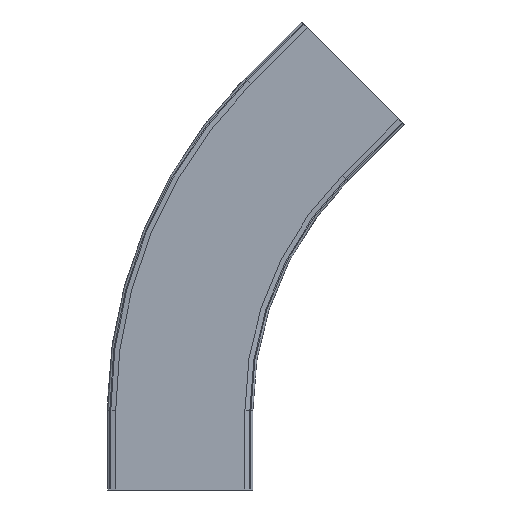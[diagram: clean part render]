
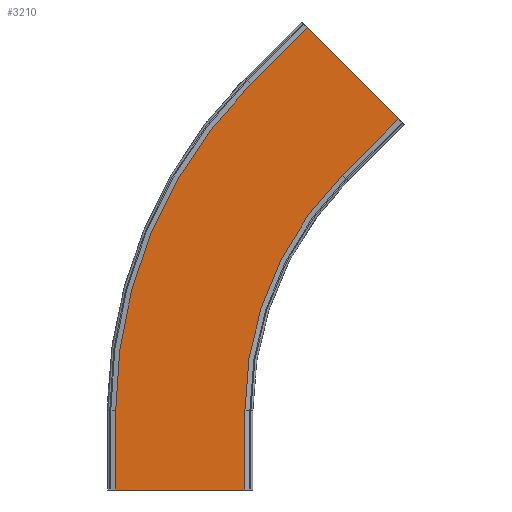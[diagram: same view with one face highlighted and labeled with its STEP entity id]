
A CAD part, front view. The second image highlights one B-rep face of the part: STEP entity #3210.
In plain terms, the highlighted planar face has unit normal (0, -1, 0).
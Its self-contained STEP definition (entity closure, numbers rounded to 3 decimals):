
#129=CIRCLE('',#3412,335.);
#130=CIRCLE('',#3414,465.);
#272=FACE_OUTER_BOUND('',#447,.T.);
#447=EDGE_LOOP('',(#2153,#2154,#2155,#2156,#2157,#2158,#2159,#2160));
#629=LINE('',#4490,#979);
#633=LINE('',#4497,#983);
#644=LINE('',#4530,#994);
#645=LINE('',#4532,#995);
#646=LINE('',#4533,#996);
#647=LINE('',#4534,#997);
#979=VECTOR('',#3652,10.);
#983=VECTOR('',#3658,10.);
#994=VECTOR('',#3689,10.);
#995=VECTOR('',#3690,10.);
#996=VECTOR('',#3691,10.);
#997=VECTOR('',#3692,10.);
#1329=VERTEX_POINT('',#4487);
#1330=VERTEX_POINT('',#4489);
#1332=VERTEX_POINT('',#4495);
#1341=VERTEX_POINT('',#4521);
#1342=VERTEX_POINT('',#4523);
#1343=VERTEX_POINT('',#4527);
#1344=VERTEX_POINT('',#4529);
#1345=VERTEX_POINT('',#4531);
#1645=EDGE_CURVE('',#1330,#1329,#629,.T.);
#1649=EDGE_CURVE('',#1332,#1329,#633,.T.);
#1662=EDGE_CURVE('',#1342,#1341,#129,.T.);
#1664=EDGE_CURVE('',#1343,#1332,#130,.T.);
#1665=EDGE_CURVE('',#1344,#1343,#644,.T.);
#1666=EDGE_CURVE('',#1344,#1345,#645,.T.);
#1667=EDGE_CURVE('',#1345,#1342,#646,.T.);
#1668=EDGE_CURVE('',#1341,#1330,#647,.T.);
#2153=ORIENTED_EDGE('',*,*,#1645,.T.);
#2154=ORIENTED_EDGE('',*,*,#1649,.F.);
#2155=ORIENTED_EDGE('',*,*,#1664,.F.);
#2156=ORIENTED_EDGE('',*,*,#1665,.F.);
#2157=ORIENTED_EDGE('',*,*,#1666,.T.);
#2158=ORIENTED_EDGE('',*,*,#1667,.T.);
#2159=ORIENTED_EDGE('',*,*,#1662,.T.);
#2160=ORIENTED_EDGE('',*,*,#1668,.T.);
#3091=PLANE('',#3413);
#3210=ADVANCED_FACE('',(#272),#3091,.T.);
#3412=AXIS2_PLACEMENT_3D('',#4524,#3682,#3683);
#3413=AXIS2_PLACEMENT_3D('',#4526,#3685,#3686);
#3414=AXIS2_PLACEMENT_3D('',#4528,#3687,#3688);
#3652=DIRECTION('',(-0.707,0.,0.707));
#3658=DIRECTION('',(0.707,0.,0.707));
#3682=DIRECTION('center_axis',(0.,1.,0.));
#3683=DIRECTION('ref_axis',(-1.,0.,0.));
#3685=DIRECTION('center_axis',(0.,-1.,0.));
#3686=DIRECTION('ref_axis',(-0.707,0.,-0.707));
#3687=DIRECTION('center_axis',(0.,1.,0.));
#3688=DIRECTION('ref_axis',(-1.,0.,0.));
#3689=DIRECTION('',(0.,0.,1.));
#3690=DIRECTION('',(1.,0.,0.));
#3691=DIRECTION('',(0.,0.,1.));
#3692=DIRECTION('',(0.707,0.,0.707));
#4487=CARTESIAN_POINT('',(166.765,-72.,465.373));
#4489=CARTESIAN_POINT('',(258.688,-72.,373.449));
#4490=CARTESIAN_POINT('',(234.647,-72.,397.491));
#4495=CARTESIAN_POINT('',(110.196,-72.,408.805));
#4497=CARTESIAN_POINT('',(-168.517,-72.,130.092));
#4521=CARTESIAN_POINT('',(202.12,-72.,316.881));
#4523=CARTESIAN_POINT('',(104.001,-72.,80.));
#4524=CARTESIAN_POINT('Origin',(439.001,-72.,80.));
#4526=CARTESIAN_POINT('Origin',(-76.593,-72.,38.168));
#4527=CARTESIAN_POINT('',(-25.999,-72.,80.));
#4528=CARTESIAN_POINT('Origin',(439.001,-72.,80.));
#4529=CARTESIAN_POINT('',(-25.999,-72.,0.));
#4530=CARTESIAN_POINT('',(-25.999,-72.,0.));
#4531=CARTESIAN_POINT('',(104.001,-72.,0.));
#4532=CARTESIAN_POINT('',(-25.999,-72.,0.));
#4533=CARTESIAN_POINT('',(104.001,-72.,0.));
#4534=CARTESIAN_POINT('',(-76.593,-72.,38.168));
